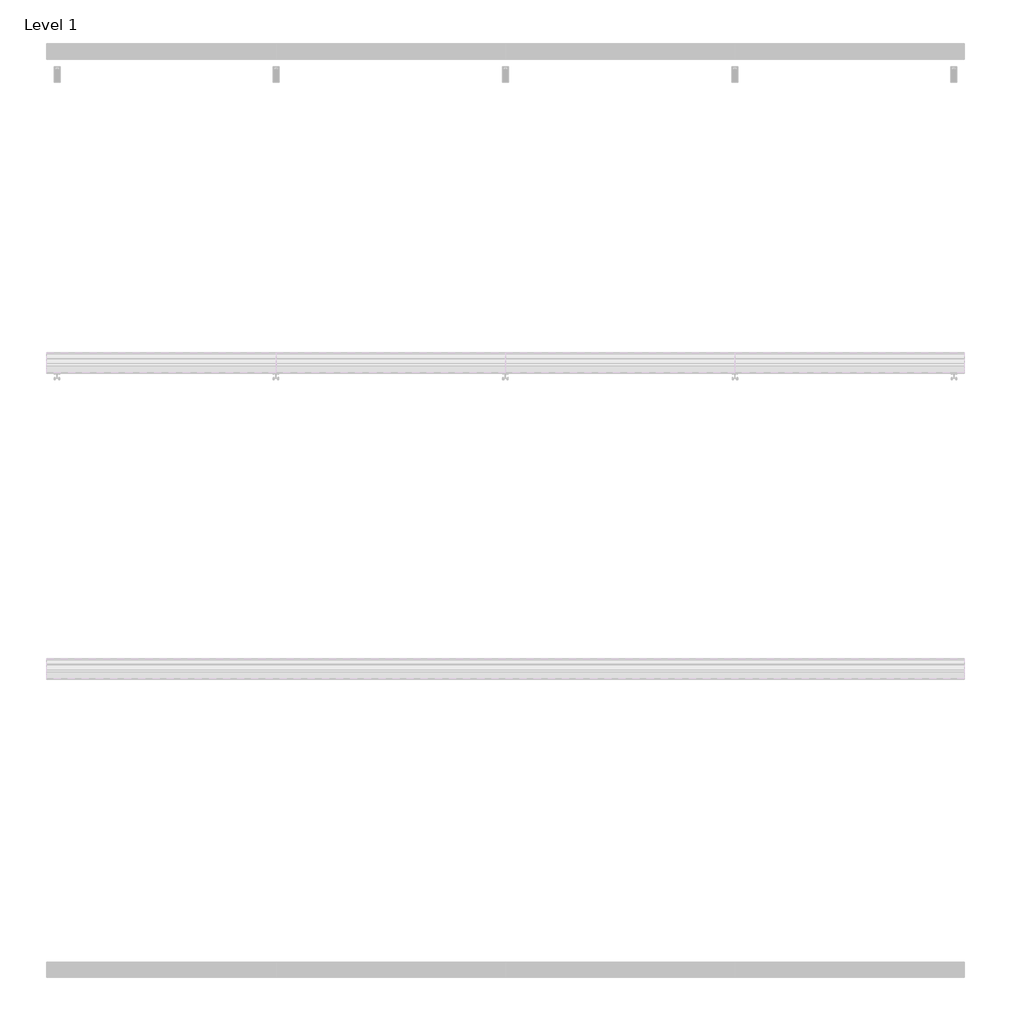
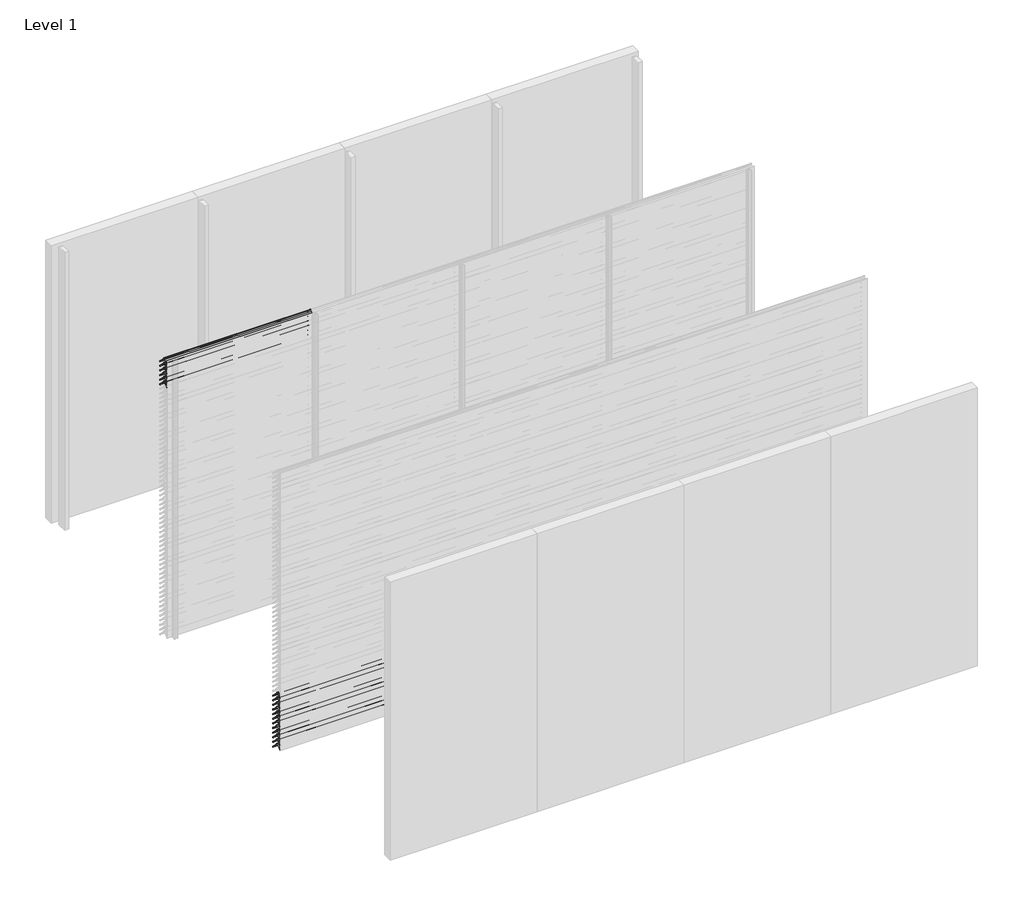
# One storey, part 40 of 173: 18 proxies.
"""IFC4 building model written with IfcOpenShell, lengths in millimetres."""

from ifc_helpers import new_model, si_unit, point, frame, frame_2d, origin, place, context, project, spatial, polyline, circle_curve, trimmed, segment, composite_curve, outline, extrude, element, save

model = new_model("IFC4")

# Units and contexts
model_context = context("Model", 3, world=origin())
ifc_project = project(units=[si_unit("LENGTHUNIT", "METRE", prefix="MILLI")], contexts=[model_context])

# Site, building, storey
site = spatial("IfcSite", under=ifc_project)
building = spatial("IfcBuilding", under=site)
storey = spatial("IfcBuildingStorey", under=building, Name="Level 1", Elevation=0.0)

# Proxies
placement = place(None, origin())
element("IfcBuildingElementProxy", 1, Name="Wall Sweeps", at=placement, inside=storey, context=model_context, shape_type="SweptSolid", body=[
    extrude(outline(composite_curve([segment(polyline([(-41998.0, 2959.1474905), (-41998.0, 2961.6227417)]), True, "CONTINUOUS"), segment(trimmed(circle_curve(frame_2d((-41951.2682172, 2916.2200208)), 65.1557103), [point((-41998.0, 2961.6227417))], [point((-41954.4014323, 2981.3003524))], False, "CARTESIAN"), True, "CONTINUOUS"), segment(polyline([(-41954.4014323, 2981.3003524), (-41934.8315836, 2981.3003524)]), True, "CONTINUOUS"), segment(trimmed(circle_curve(frame_2d((-41732.7329489, 3128.5533172)), 250.0545817), [point((-41934.8315836, 2981.3003524))], [point((-41941.4452143, 2990.8344583))], False, "CARTESIAN"), True, "CONTINUOUS"), segment(trimmed(circle_curve(frame_2d((-41953.2981792, 2985.1737835)), 13.1352966), [point((-41941.4452143, 2990.8344583))], [point((-41953.8171475, 2998.298824))], True, "CARTESIAN"), True, "CONTINUOUS"), segment(polyline([(-41953.8171475, 2998.298824), (-41953.8171475, 3000.0)]), True, "CONTINUOUS"), segment(trimmed(circle_curve(frame_2d((-41953.2981792, 2985.1737835)), 14.8352966), [point((-41953.8171475, 3000.0))], [point((-41939.9637661, 2991.6760487))], False, "CARTESIAN"), True, "CONTINUOUS"), segment(trimmed(circle_curve(frame_2d((-41732.7329489, 3128.5533172)), 248.3545817), [point((-41939.9637661, 2991.6760487))], [point((-41873.8787895, 2924.2059416))], True, "CARTESIAN"), True, "CONTINUOUS"), segment(trimmed(circle_curve(frame_2d((-41883.8147537, 2911.6649442)), 16.0), [point((-41873.8787895, 2924.2059416))], [point((-41867.8648347, 2910.4))], False, "CARTESIAN"), True, "CONTINUOUS"), segment(polyline([(-41867.8648347, 2910.4), (-41869.6712069, 2910.4)]), True, "CONTINUOUS"), segment(trimmed(circle_curve(frame_2d((-41883.8147537, 2911.6649442)), 14.2), [point((-41869.6712069, 2910.4))], [point((-41874.9518628, 2922.7594998))], True, "CARTESIAN"), True, "CONTINUOUS"), segment(trimmed(circle_curve(frame_2d((-41732.7329489, 3128.5533172)), 250.1545817), [point((-41874.9518628, 2922.7594998))], [point((-41933.7064024, 2979.6003524))], False, "CARTESIAN"), True, "CONTINUOUS"), segment(polyline([(-41933.7064024, 2979.6003524), (-41954.3602632, 2979.6003524)]), True, "CONTINUOUS"), segment(trimmed(circle_curve(frame_2d((-41951.2682172, 2916.2200208)), 63.4557103), [point((-41954.3602632, 2979.6003524))], [point((-41998.0, 2959.1474905))], True, "CARTESIAN"), True, "CONTINUOUS")], self_intersect=False)), frame((0.0, 0.0, 0.0), z_axis=(1.0, 0.0, 0.0), x_axis=(0.0, 1.0, 0.0)), (0.0, 0.0, 1.0), 1500.0),
])
element("IfcBuildingElementProxy", 2, Name="Wall Sweeps", at=placement, inside=storey, context=model_context, shape_type="SweptSolid", body=[
    extrude(outline(composite_curve([segment(polyline([(-41998.0, 2909.1474905), (-41998.0, 2911.6227417)]), True, "CONTINUOUS"), segment(trimmed(circle_curve(frame_2d((-41951.2682172, 2866.2200208)), 65.1557103), [point((-41998.0, 2911.6227417))], [point((-41954.4014323, 2931.3003524))], False, "CARTESIAN"), True, "CONTINUOUS"), segment(polyline([(-41954.4014323, 2931.3003524), (-41934.8315836, 2931.3003524)]), True, "CONTINUOUS"), segment(trimmed(circle_curve(frame_2d((-41732.7329489, 3078.5533172)), 250.0545817), [point((-41934.8315836, 2931.3003524))], [point((-41941.4452143, 2940.8344583))], False, "CARTESIAN"), True, "CONTINUOUS"), segment(trimmed(circle_curve(frame_2d((-41953.2981792, 2935.1737835)), 13.1352966), [point((-41941.4452143, 2940.8344583))], [point((-41953.8171475, 2948.298824))], True, "CARTESIAN"), True, "CONTINUOUS"), segment(polyline([(-41953.8171475, 2948.298824), (-41953.8171475, 2950.0)]), True, "CONTINUOUS"), segment(trimmed(circle_curve(frame_2d((-41953.2981792, 2935.1737835)), 14.8352966), [point((-41953.8171475, 2950.0))], [point((-41939.9637661, 2941.6760487))], False, "CARTESIAN"), True, "CONTINUOUS"), segment(trimmed(circle_curve(frame_2d((-41732.7329489, 3078.5533172)), 248.3545817), [point((-41939.9637661, 2941.6760487))], [point((-41873.8787895, 2874.2059416))], True, "CARTESIAN"), True, "CONTINUOUS"), segment(trimmed(circle_curve(frame_2d((-41883.8147537, 2861.6649442)), 16.0), [point((-41873.8787895, 2874.2059416))], [point((-41867.8648347, 2860.4))], False, "CARTESIAN"), True, "CONTINUOUS"), segment(polyline([(-41867.8648347, 2860.4), (-41869.6712069, 2860.4)]), True, "CONTINUOUS"), segment(trimmed(circle_curve(frame_2d((-41883.8147537, 2861.6649442)), 14.2), [point((-41869.6712069, 2860.4))], [point((-41874.9518628, 2872.7594998))], True, "CARTESIAN"), True, "CONTINUOUS"), segment(trimmed(circle_curve(frame_2d((-41732.7329489, 3078.5533172)), 250.1545817), [point((-41874.9518628, 2872.7594998))], [point((-41933.7064024, 2929.6003524))], False, "CARTESIAN"), True, "CONTINUOUS"), segment(polyline([(-41933.7064024, 2929.6003524), (-41954.3602632, 2929.6003524)]), True, "CONTINUOUS"), segment(trimmed(circle_curve(frame_2d((-41951.2682172, 2866.2200208)), 63.4557103), [point((-41954.3602632, 2929.6003524))], [point((-41998.0, 2909.1474905))], True, "CARTESIAN"), True, "CONTINUOUS")], self_intersect=False)), frame((0.0, 0.0, 0.0), z_axis=(1.0, 0.0, 0.0), x_axis=(0.0, 1.0, 0.0)), (0.0, 0.0, 1.0), 1500.0),
])
element("IfcBuildingElementProxy", 3, Name="Wall Sweeps", at=placement, inside=storey, context=model_context, shape_type="SweptSolid", body=[
    extrude(outline(composite_curve([segment(polyline([(-41998.0, 2859.1474905), (-41998.0, 2861.6227417)]), True, "CONTINUOUS"), segment(trimmed(circle_curve(frame_2d((-41951.2682172, 2816.2200208)), 65.1557103), [point((-41998.0, 2861.6227417))], [point((-41954.4014323, 2881.3003524))], False, "CARTESIAN"), True, "CONTINUOUS"), segment(polyline([(-41954.4014323, 2881.3003524), (-41934.8315836, 2881.3003524)]), True, "CONTINUOUS"), segment(trimmed(circle_curve(frame_2d((-41732.7329489, 3028.5533172)), 250.0545817), [point((-41934.8315836, 2881.3003524))], [point((-41941.4452143, 2890.8344583))], False, "CARTESIAN"), True, "CONTINUOUS"), segment(trimmed(circle_curve(frame_2d((-41953.2981792, 2885.1737835)), 13.1352966), [point((-41941.4452143, 2890.8344583))], [point((-41953.8171475, 2898.298824))], True, "CARTESIAN"), True, "CONTINUOUS"), segment(polyline([(-41953.8171475, 2898.298824), (-41953.8171475, 2900.0)]), True, "CONTINUOUS"), segment(trimmed(circle_curve(frame_2d((-41953.2981792, 2885.1737835)), 14.8352966), [point((-41953.8171475, 2900.0))], [point((-41939.9637661, 2891.6760487))], False, "CARTESIAN"), True, "CONTINUOUS"), segment(trimmed(circle_curve(frame_2d((-41732.7329489, 3028.5533172)), 248.3545817), [point((-41939.9637661, 2891.6760487))], [point((-41873.8787895, 2824.2059416))], True, "CARTESIAN"), True, "CONTINUOUS"), segment(trimmed(circle_curve(frame_2d((-41883.8147537, 2811.6649442)), 16.0), [point((-41873.8787895, 2824.2059416))], [point((-41867.8648347, 2810.4))], False, "CARTESIAN"), True, "CONTINUOUS"), segment(polyline([(-41867.8648347, 2810.4), (-41869.6712069, 2810.4)]), True, "CONTINUOUS"), segment(trimmed(circle_curve(frame_2d((-41883.8147537, 2811.6649442)), 14.2), [point((-41869.6712069, 2810.4))], [point((-41874.9518628, 2822.7594998))], True, "CARTESIAN"), True, "CONTINUOUS"), segment(trimmed(circle_curve(frame_2d((-41732.7329489, 3028.5533172)), 250.1545817), [point((-41874.9518628, 2822.7594998))], [point((-41933.7064024, 2879.6003524))], False, "CARTESIAN"), True, "CONTINUOUS"), segment(polyline([(-41933.7064024, 2879.6003524), (-41954.3602632, 2879.6003524)]), True, "CONTINUOUS"), segment(trimmed(circle_curve(frame_2d((-41951.2682172, 2816.2200208)), 63.4557103), [point((-41954.3602632, 2879.6003524))], [point((-41998.0, 2859.1474905))], True, "CARTESIAN"), True, "CONTINUOUS")], self_intersect=False)), frame((0.0, 0.0, 0.0), z_axis=(1.0, 0.0, 0.0), x_axis=(0.0, 1.0, 0.0)), (0.0, 0.0, 1.0), 1500.0),
])
element("IfcBuildingElementProxy", 4, Name="Wall Sweeps", at=placement, inside=storey, context=model_context, shape_type="SweptSolid", body=[
    extrude(outline(composite_curve([segment(polyline([(-41998.0, 2809.1474905), (-41998.0, 2811.6227417)]), True, "CONTINUOUS"), segment(trimmed(circle_curve(frame_2d((-41951.2682172, 2766.2200208)), 65.1557103), [point((-41998.0, 2811.6227417))], [point((-41954.4014323, 2831.3003524))], False, "CARTESIAN"), True, "CONTINUOUS"), segment(polyline([(-41954.4014323, 2831.3003524), (-41934.8315836, 2831.3003524)]), True, "CONTINUOUS"), segment(trimmed(circle_curve(frame_2d((-41732.7329489, 2978.5533172)), 250.0545817), [point((-41934.8315836, 2831.3003524))], [point((-41941.4452143, 2840.8344583))], False, "CARTESIAN"), True, "CONTINUOUS"), segment(trimmed(circle_curve(frame_2d((-41953.2981792, 2835.1737835)), 13.1352966), [point((-41941.4452143, 2840.8344583))], [point((-41953.8171475, 2848.298824))], True, "CARTESIAN"), True, "CONTINUOUS"), segment(polyline([(-41953.8171475, 2848.298824), (-41953.8171475, 2850.0)]), True, "CONTINUOUS"), segment(trimmed(circle_curve(frame_2d((-41953.2981792, 2835.1737835)), 14.8352966), [point((-41953.8171475, 2850.0))], [point((-41939.9637661, 2841.6760487))], False, "CARTESIAN"), True, "CONTINUOUS"), segment(trimmed(circle_curve(frame_2d((-41732.7329489, 2978.5533172)), 248.3545817), [point((-41939.9637661, 2841.6760487))], [point((-41873.8787895, 2774.2059416))], True, "CARTESIAN"), True, "CONTINUOUS"), segment(trimmed(circle_curve(frame_2d((-41883.8147537, 2761.6649442)), 16.0), [point((-41873.8787895, 2774.2059416))], [point((-41867.8648347, 2760.4))], False, "CARTESIAN"), True, "CONTINUOUS"), segment(polyline([(-41867.8648347, 2760.4), (-41869.6712069, 2760.4)]), True, "CONTINUOUS"), segment(trimmed(circle_curve(frame_2d((-41883.8147537, 2761.6649442)), 14.2), [point((-41869.6712069, 2760.4))], [point((-41874.9518628, 2772.7594998))], True, "CARTESIAN"), True, "CONTINUOUS"), segment(trimmed(circle_curve(frame_2d((-41732.7329489, 2978.5533172)), 250.1545817), [point((-41874.9518628, 2772.7594998))], [point((-41933.7064024, 2829.6003524))], False, "CARTESIAN"), True, "CONTINUOUS"), segment(polyline([(-41933.7064024, 2829.6003524), (-41954.3602632, 2829.6003524)]), True, "CONTINUOUS"), segment(trimmed(circle_curve(frame_2d((-41951.2682172, 2766.2200208)), 63.4557103), [point((-41954.3602632, 2829.6003524))], [point((-41998.0, 2809.1474905))], True, "CARTESIAN"), True, "CONTINUOUS")], self_intersect=False)), frame((0.0, 0.0, 0.0), z_axis=(1.0, 0.0, 0.0), x_axis=(0.0, 1.0, 0.0)), (0.0, 0.0, 1.0), 1500.0),
])
element("IfcBuildingElementProxy", 5, Name="Wall Sweeps", at=placement, inside=storey, context=model_context, shape_type="SweptSolid", body=[
    extrude(outline(composite_curve([segment(polyline([(-41998.0, 2759.1474905), (-41998.0, 2761.6227417)]), True, "CONTINUOUS"), segment(trimmed(circle_curve(frame_2d((-41951.2682172, 2716.2200208)), 65.1557103), [point((-41998.0, 2761.6227417))], [point((-41954.4014323, 2781.3003524))], False, "CARTESIAN"), True, "CONTINUOUS"), segment(polyline([(-41954.4014323, 2781.3003524), (-41934.8315836, 2781.3003524)]), True, "CONTINUOUS"), segment(trimmed(circle_curve(frame_2d((-41732.7329489, 2928.5533172)), 250.0545817), [point((-41934.8315836, 2781.3003524))], [point((-41941.4452143, 2790.8344583))], False, "CARTESIAN"), True, "CONTINUOUS"), segment(trimmed(circle_curve(frame_2d((-41953.2981792, 2785.1737835)), 13.1352966), [point((-41941.4452143, 2790.8344583))], [point((-41953.8171475, 2798.298824))], True, "CARTESIAN"), True, "CONTINUOUS"), segment(polyline([(-41953.8171475, 2798.298824), (-41953.8171475, 2800.0)]), True, "CONTINUOUS"), segment(trimmed(circle_curve(frame_2d((-41953.2981792, 2785.1737835)), 14.8352966), [point((-41953.8171475, 2800.0))], [point((-41939.9637661, 2791.6760487))], False, "CARTESIAN"), True, "CONTINUOUS"), segment(trimmed(circle_curve(frame_2d((-41732.7329489, 2928.5533172)), 248.3545817), [point((-41939.9637661, 2791.6760487))], [point((-41873.8787895, 2724.2059416))], True, "CARTESIAN"), True, "CONTINUOUS"), segment(trimmed(circle_curve(frame_2d((-41883.8147537, 2711.6649442)), 16.0), [point((-41873.8787895, 2724.2059416))], [point((-41867.8648347, 2710.4))], False, "CARTESIAN"), True, "CONTINUOUS"), segment(polyline([(-41867.8648347, 2710.4), (-41869.6712069, 2710.4)]), True, "CONTINUOUS"), segment(trimmed(circle_curve(frame_2d((-41883.8147537, 2711.6649442)), 14.2), [point((-41869.6712069, 2710.4))], [point((-41874.9518628, 2722.7594998))], True, "CARTESIAN"), True, "CONTINUOUS"), segment(trimmed(circle_curve(frame_2d((-41732.7329489, 2928.5533172)), 250.1545817), [point((-41874.9518628, 2722.7594998))], [point((-41933.7064024, 2779.6003524))], False, "CARTESIAN"), True, "CONTINUOUS"), segment(polyline([(-41933.7064024, 2779.6003524), (-41954.3602632, 2779.6003524)]), True, "CONTINUOUS"), segment(trimmed(circle_curve(frame_2d((-41951.2682172, 2716.2200208)), 63.4557103), [point((-41954.3602632, 2779.6003524))], [point((-41998.0, 2759.1474905))], True, "CARTESIAN"), True, "CONTINUOUS")], self_intersect=False)), frame((0.0, 0.0, 0.0), z_axis=(1.0, 0.0, 0.0), x_axis=(0.0, 1.0, 0.0)), (0.0, 0.0, 1.0), 1500.0),
])
element("IfcBuildingElementProxy", 6, Name="Wall Sweeps", at=placement, inside=storey, context=model_context, shape_type="SweptSolid", body=[
    extrude(outline(composite_curve([segment(polyline([(-41998.0, 2709.1474905), (-41998.0, 2711.6227417)]), True, "CONTINUOUS"), segment(trimmed(circle_curve(frame_2d((-41951.2682172, 2666.2200208)), 65.1557103), [point((-41998.0, 2711.6227417))], [point((-41954.4014323, 2731.3003524))], False, "CARTESIAN"), True, "CONTINUOUS"), segment(polyline([(-41954.4014323, 2731.3003524), (-41934.8315836, 2731.3003524)]), True, "CONTINUOUS"), segment(trimmed(circle_curve(frame_2d((-41732.7329489, 2878.5533172)), 250.0545817), [point((-41934.8315836, 2731.3003524))], [point((-41941.4452143, 2740.8344583))], False, "CARTESIAN"), True, "CONTINUOUS"), segment(trimmed(circle_curve(frame_2d((-41953.2981792, 2735.1737835)), 13.1352966), [point((-41941.4452143, 2740.8344583))], [point((-41953.8171475, 2748.298824))], True, "CARTESIAN"), True, "CONTINUOUS"), segment(polyline([(-41953.8171475, 2748.298824), (-41953.8171475, 2750.0)]), True, "CONTINUOUS"), segment(trimmed(circle_curve(frame_2d((-41953.2981792, 2735.1737835)), 14.8352966), [point((-41953.8171475, 2750.0))], [point((-41939.9637661, 2741.6760487))], False, "CARTESIAN"), True, "CONTINUOUS"), segment(trimmed(circle_curve(frame_2d((-41732.7329489, 2878.5533172)), 248.3545817), [point((-41939.9637661, 2741.6760487))], [point((-41873.8787895, 2674.2059416))], True, "CARTESIAN"), True, "CONTINUOUS"), segment(trimmed(circle_curve(frame_2d((-41883.8147537, 2661.6649442)), 16.0), [point((-41873.8787895, 2674.2059416))], [point((-41867.8648347, 2660.4))], False, "CARTESIAN"), True, "CONTINUOUS"), segment(polyline([(-41867.8648347, 2660.4), (-41869.6712069, 2660.4)]), True, "CONTINUOUS"), segment(trimmed(circle_curve(frame_2d((-41883.8147537, 2661.6649442)), 14.2), [point((-41869.6712069, 2660.4))], [point((-41874.9518628, 2672.7594998))], True, "CARTESIAN"), True, "CONTINUOUS"), segment(trimmed(circle_curve(frame_2d((-41732.7329489, 2878.5533172)), 250.1545817), [point((-41874.9518628, 2672.7594998))], [point((-41933.7064024, 2729.6003524))], False, "CARTESIAN"), True, "CONTINUOUS"), segment(polyline([(-41933.7064024, 2729.6003524), (-41954.3602632, 2729.6003524)]), True, "CONTINUOUS"), segment(trimmed(circle_curve(frame_2d((-41951.2682172, 2666.2200208)), 63.4557103), [point((-41954.3602632, 2729.6003524))], [point((-41998.0, 2709.1474905))], True, "CARTESIAN"), True, "CONTINUOUS")], self_intersect=False)), frame((0.0, 0.0, 0.0), z_axis=(1.0, 0.0, 0.0), x_axis=(0.0, 1.0, 0.0)), (0.0, 0.0, 1.0), 1500.0),
])
element("IfcBuildingElementProxy", 7, Name="Wall Sweeps", at=placement, inside=storey, context=model_context, shape_type="SweptSolid", body=[
    extrude(outline(composite_curve([segment(polyline([(-43998.0, 559.1474905), (-43998.0, 561.6227417)]), True, "CONTINUOUS"), segment(trimmed(circle_curve(frame_2d((-43951.2682172, 516.2200208)), 65.1557103), [point((-43998.0, 561.6227417))], [point((-43954.4014323, 581.3003524))], False, "CARTESIAN"), True, "CONTINUOUS"), segment(polyline([(-43954.4014323, 581.3003524), (-43934.8315836, 581.3003524)]), True, "CONTINUOUS"), segment(trimmed(circle_curve(frame_2d((-43732.7329489, 728.5533172)), 250.0545817), [point((-43934.8315836, 581.3003524))], [point((-43941.4452143, 590.8344583))], False, "CARTESIAN"), True, "CONTINUOUS"), segment(trimmed(circle_curve(frame_2d((-43953.2981792, 585.1737835)), 13.1352966), [point((-43941.4452143, 590.8344583))], [point((-43953.8171475, 598.298824))], True, "CARTESIAN"), True, "CONTINUOUS"), segment(polyline([(-43953.8171475, 598.298824), (-43953.8171475, 600.0)]), True, "CONTINUOUS"), segment(trimmed(circle_curve(frame_2d((-43953.2981792, 585.1737835)), 14.8352966), [point((-43953.8171475, 600.0))], [point((-43939.9637661, 591.6760487))], False, "CARTESIAN"), True, "CONTINUOUS"), segment(trimmed(circle_curve(frame_2d((-43732.7329489, 728.5533172)), 248.3545817), [point((-43939.9637661, 591.6760487))], [point((-43873.8787895, 524.2059416))], True, "CARTESIAN"), True, "CONTINUOUS"), segment(trimmed(circle_curve(frame_2d((-43883.8147537, 511.6649442)), 16.0), [point((-43873.8787895, 524.2059416))], [point((-43867.8648347, 510.4))], False, "CARTESIAN"), True, "CONTINUOUS"), segment(polyline([(-43867.8648347, 510.4), (-43869.6712069, 510.4)]), True, "CONTINUOUS"), segment(trimmed(circle_curve(frame_2d((-43883.8147537, 511.6649442)), 14.2), [point((-43869.6712069, 510.4))], [point((-43874.9518628, 522.7594998))], True, "CARTESIAN"), True, "CONTINUOUS"), segment(trimmed(circle_curve(frame_2d((-43732.7329489, 728.5533172)), 250.1545817), [point((-43874.9518628, 522.7594998))], [point((-43933.7064024, 579.6003524))], False, "CARTESIAN"), True, "CONTINUOUS"), segment(polyline([(-43933.7064024, 579.6003524), (-43954.3602632, 579.6003524)]), True, "CONTINUOUS"), segment(trimmed(circle_curve(frame_2d((-43951.2682172, 516.2200208)), 63.4557103), [point((-43954.3602632, 579.6003524))], [point((-43998.0, 559.1474905))], True, "CARTESIAN"), True, "CONTINUOUS")], self_intersect=False)), frame((0.0, 0.0, 0.0), z_axis=(1.0, 0.0, 0.0), x_axis=(0.0, 1.0, 0.0)), (0.0, 0.0, 1.0), 6000.0),
])
element("IfcBuildingElementProxy", 8, Name="Wall Sweeps", at=placement, inside=storey, context=model_context, shape_type="SweptSolid", body=[
    extrude(outline(composite_curve([segment(polyline([(-43998.0, 509.1474905), (-43998.0, 511.6227417)]), True, "CONTINUOUS"), segment(trimmed(circle_curve(frame_2d((-43951.2682172, 466.2200208)), 65.1557103), [point((-43998.0, 511.6227417))], [point((-43954.4014323, 531.3003524))], False, "CARTESIAN"), True, "CONTINUOUS"), segment(polyline([(-43954.4014323, 531.3003524), (-43934.8315836, 531.3003524)]), True, "CONTINUOUS"), segment(trimmed(circle_curve(frame_2d((-43732.7329489, 678.5533172)), 250.0545817), [point((-43934.8315836, 531.3003524))], [point((-43941.4452143, 540.8344583))], False, "CARTESIAN"), True, "CONTINUOUS"), segment(trimmed(circle_curve(frame_2d((-43953.2981792, 535.1737835)), 13.1352966), [point((-43941.4452143, 540.8344583))], [point((-43953.8171475, 548.298824))], True, "CARTESIAN"), True, "CONTINUOUS"), segment(polyline([(-43953.8171475, 548.298824), (-43953.8171475, 550.0)]), True, "CONTINUOUS"), segment(trimmed(circle_curve(frame_2d((-43953.2981792, 535.1737835)), 14.8352966), [point((-43953.8171475, 550.0))], [point((-43939.9637661, 541.6760487))], False, "CARTESIAN"), True, "CONTINUOUS"), segment(trimmed(circle_curve(frame_2d((-43732.7329489, 678.5533172)), 248.3545817), [point((-43939.9637661, 541.6760487))], [point((-43873.8787895, 474.2059416))], True, "CARTESIAN"), True, "CONTINUOUS"), segment(trimmed(circle_curve(frame_2d((-43883.8147537, 461.6649442)), 16.0), [point((-43873.8787895, 474.2059416))], [point((-43867.8648347, 460.4))], False, "CARTESIAN"), True, "CONTINUOUS"), segment(polyline([(-43867.8648347, 460.4), (-43869.6712069, 460.4)]), True, "CONTINUOUS"), segment(trimmed(circle_curve(frame_2d((-43883.8147537, 461.6649442)), 14.2), [point((-43869.6712069, 460.4))], [point((-43874.9518628, 472.7594998))], True, "CARTESIAN"), True, "CONTINUOUS"), segment(trimmed(circle_curve(frame_2d((-43732.7329489, 678.5533172)), 250.1545817), [point((-43874.9518628, 472.7594998))], [point((-43933.7064024, 529.6003524))], False, "CARTESIAN"), True, "CONTINUOUS"), segment(polyline([(-43933.7064024, 529.6003524), (-43954.3602632, 529.6003524)]), True, "CONTINUOUS"), segment(trimmed(circle_curve(frame_2d((-43951.2682172, 466.2200208)), 63.4557103), [point((-43954.3602632, 529.6003524))], [point((-43998.0, 509.1474905))], True, "CARTESIAN"), True, "CONTINUOUS")], self_intersect=False)), frame((0.0, 0.0, 0.0), z_axis=(1.0, 0.0, 0.0), x_axis=(0.0, 1.0, 0.0)), (0.0, 0.0, 1.0), 6000.0),
])
element("IfcBuildingElementProxy", 9, Name="Wall Sweeps", at=placement, inside=storey, context=model_context, shape_type="SweptSolid", body=[
    extrude(outline(composite_curve([segment(polyline([(-43998.0, 459.1474905), (-43998.0, 461.6227417)]), True, "CONTINUOUS"), segment(trimmed(circle_curve(frame_2d((-43951.2682172, 416.2200208)), 65.1557103), [point((-43998.0, 461.6227417))], [point((-43954.4014323, 481.3003524))], False, "CARTESIAN"), True, "CONTINUOUS"), segment(polyline([(-43954.4014323, 481.3003524), (-43934.8315836, 481.3003524)]), True, "CONTINUOUS"), segment(trimmed(circle_curve(frame_2d((-43732.7329489, 628.5533172)), 250.0545817), [point((-43934.8315836, 481.3003524))], [point((-43941.4452143, 490.8344583))], False, "CARTESIAN"), True, "CONTINUOUS"), segment(trimmed(circle_curve(frame_2d((-43953.2981792, 485.1737835)), 13.1352966), [point((-43941.4452143, 490.8344583))], [point((-43953.8171475, 498.298824))], True, "CARTESIAN"), True, "CONTINUOUS"), segment(polyline([(-43953.8171475, 498.298824), (-43953.8171475, 500.0)]), True, "CONTINUOUS"), segment(trimmed(circle_curve(frame_2d((-43953.2981792, 485.1737835)), 14.8352966), [point((-43953.8171475, 500.0))], [point((-43939.9637661, 491.6760487))], False, "CARTESIAN"), True, "CONTINUOUS"), segment(trimmed(circle_curve(frame_2d((-43732.7329489, 628.5533172)), 248.3545817), [point((-43939.9637661, 491.6760487))], [point((-43873.8787895, 424.2059416))], True, "CARTESIAN"), True, "CONTINUOUS"), segment(trimmed(circle_curve(frame_2d((-43883.8147537, 411.6649442)), 16.0), [point((-43873.8787895, 424.2059416))], [point((-43867.8648347, 410.4))], False, "CARTESIAN"), True, "CONTINUOUS"), segment(polyline([(-43867.8648347, 410.4), (-43869.6712069, 410.4)]), True, "CONTINUOUS"), segment(trimmed(circle_curve(frame_2d((-43883.8147537, 411.6649442)), 14.2), [point((-43869.6712069, 410.4))], [point((-43874.9518628, 422.7594998))], True, "CARTESIAN"), True, "CONTINUOUS"), segment(trimmed(circle_curve(frame_2d((-43732.7329489, 628.5533172)), 250.1545817), [point((-43874.9518628, 422.7594998))], [point((-43933.7064024, 479.6003524))], False, "CARTESIAN"), True, "CONTINUOUS"), segment(polyline([(-43933.7064024, 479.6003524), (-43954.3602632, 479.6003524)]), True, "CONTINUOUS"), segment(trimmed(circle_curve(frame_2d((-43951.2682172, 416.2200208)), 63.4557103), [point((-43954.3602632, 479.6003524))], [point((-43998.0, 459.1474905))], True, "CARTESIAN"), True, "CONTINUOUS")], self_intersect=False)), frame((0.0, 0.0, 0.0), z_axis=(1.0, 0.0, 0.0), x_axis=(0.0, 1.0, 0.0)), (0.0, 0.0, 1.0), 6000.0),
])
element("IfcBuildingElementProxy", 10, Name="Wall Sweeps", at=placement, inside=storey, context=model_context, shape_type="SweptSolid", body=[
    extrude(outline(composite_curve([segment(polyline([(-43998.0, 409.1474905), (-43998.0, 411.6227417)]), True, "CONTINUOUS"), segment(trimmed(circle_curve(frame_2d((-43951.2682172, 366.2200208)), 65.1557103), [point((-43998.0, 411.6227417))], [point((-43954.4014323, 431.3003524))], False, "CARTESIAN"), True, "CONTINUOUS"), segment(polyline([(-43954.4014323, 431.3003524), (-43934.8315836, 431.3003524)]), True, "CONTINUOUS"), segment(trimmed(circle_curve(frame_2d((-43732.7329489, 578.5533172)), 250.0545817), [point((-43934.8315836, 431.3003524))], [point((-43941.4452143, 440.8344583))], False, "CARTESIAN"), True, "CONTINUOUS"), segment(trimmed(circle_curve(frame_2d((-43953.2981792, 435.1737835)), 13.1352966), [point((-43941.4452143, 440.8344583))], [point((-43953.8171475, 448.298824))], True, "CARTESIAN"), True, "CONTINUOUS"), segment(polyline([(-43953.8171475, 448.298824), (-43953.8171475, 450.0)]), True, "CONTINUOUS"), segment(trimmed(circle_curve(frame_2d((-43953.2981792, 435.1737835)), 14.8352966), [point((-43953.8171475, 450.0))], [point((-43939.9637661, 441.6760487))], False, "CARTESIAN"), True, "CONTINUOUS"), segment(trimmed(circle_curve(frame_2d((-43732.7329489, 578.5533172)), 248.3545817), [point((-43939.9637661, 441.6760487))], [point((-43873.8787895, 374.2059416))], True, "CARTESIAN"), True, "CONTINUOUS"), segment(trimmed(circle_curve(frame_2d((-43883.8147537, 361.6649442)), 16.0), [point((-43873.8787895, 374.2059416))], [point((-43867.8648347, 360.4))], False, "CARTESIAN"), True, "CONTINUOUS"), segment(polyline([(-43867.8648347, 360.4), (-43869.6712069, 360.4)]), True, "CONTINUOUS"), segment(trimmed(circle_curve(frame_2d((-43883.8147537, 361.6649442)), 14.2), [point((-43869.6712069, 360.4))], [point((-43874.9518628, 372.7594998))], True, "CARTESIAN"), True, "CONTINUOUS"), segment(trimmed(circle_curve(frame_2d((-43732.7329489, 578.5533172)), 250.1545817), [point((-43874.9518628, 372.7594998))], [point((-43933.7064024, 429.6003524))], False, "CARTESIAN"), True, "CONTINUOUS"), segment(polyline([(-43933.7064024, 429.6003524), (-43954.3602632, 429.6003524)]), True, "CONTINUOUS"), segment(trimmed(circle_curve(frame_2d((-43951.2682172, 366.2200208)), 63.4557103), [point((-43954.3602632, 429.6003524))], [point((-43998.0, 409.1474905))], True, "CARTESIAN"), True, "CONTINUOUS")], self_intersect=False)), frame((0.0, 0.0, 0.0), z_axis=(1.0, 0.0, 0.0), x_axis=(0.0, 1.0, 0.0)), (0.0, 0.0, 1.0), 6000.0),
])
element("IfcBuildingElementProxy", 11, Name="Wall Sweeps", at=placement, inside=storey, context=model_context, shape_type="SweptSolid", body=[
    extrude(outline(composite_curve([segment(polyline([(-43998.0, 359.1474905), (-43998.0, 361.6227417)]), True, "CONTINUOUS"), segment(trimmed(circle_curve(frame_2d((-43951.2682172, 316.2200208)), 65.1557103), [point((-43998.0, 361.6227417))], [point((-43954.4014323, 381.3003524))], False, "CARTESIAN"), True, "CONTINUOUS"), segment(polyline([(-43954.4014323, 381.3003524), (-43934.8315836, 381.3003524)]), True, "CONTINUOUS"), segment(trimmed(circle_curve(frame_2d((-43732.7329489, 528.5533172)), 250.0545817), [point((-43934.8315836, 381.3003524))], [point((-43941.4452143, 390.8344583))], False, "CARTESIAN"), True, "CONTINUOUS"), segment(trimmed(circle_curve(frame_2d((-43953.2981792, 385.1737835)), 13.1352966), [point((-43941.4452143, 390.8344583))], [point((-43953.8171475, 398.298824))], True, "CARTESIAN"), True, "CONTINUOUS"), segment(polyline([(-43953.8171475, 398.298824), (-43953.8171475, 400.0)]), True, "CONTINUOUS"), segment(trimmed(circle_curve(frame_2d((-43953.2981792, 385.1737835)), 14.8352966), [point((-43953.8171475, 400.0))], [point((-43939.9637661, 391.6760487))], False, "CARTESIAN"), True, "CONTINUOUS"), segment(trimmed(circle_curve(frame_2d((-43732.7329489, 528.5533172)), 248.3545817), [point((-43939.9637661, 391.6760487))], [point((-43873.8787895, 324.2059416))], True, "CARTESIAN"), True, "CONTINUOUS"), segment(trimmed(circle_curve(frame_2d((-43883.8147537, 311.6649442)), 16.0), [point((-43873.8787895, 324.2059416))], [point((-43867.8648347, 310.4))], False, "CARTESIAN"), True, "CONTINUOUS"), segment(polyline([(-43867.8648347, 310.4), (-43869.6712069, 310.4)]), True, "CONTINUOUS"), segment(trimmed(circle_curve(frame_2d((-43883.8147537, 311.6649442)), 14.2), [point((-43869.6712069, 310.4))], [point((-43874.9518628, 322.7594998))], True, "CARTESIAN"), True, "CONTINUOUS"), segment(trimmed(circle_curve(frame_2d((-43732.7329489, 528.5533172)), 250.1545817), [point((-43874.9518628, 322.7594998))], [point((-43933.7064024, 379.6003524))], False, "CARTESIAN"), True, "CONTINUOUS"), segment(polyline([(-43933.7064024, 379.6003524), (-43954.3602632, 379.6003524)]), True, "CONTINUOUS"), segment(trimmed(circle_curve(frame_2d((-43951.2682172, 316.2200208)), 63.4557103), [point((-43954.3602632, 379.6003524))], [point((-43998.0, 359.1474905))], True, "CARTESIAN"), True, "CONTINUOUS")], self_intersect=False)), frame((0.0, 0.0, 0.0), z_axis=(1.0, 0.0, 0.0), x_axis=(0.0, 1.0, 0.0)), (0.0, 0.0, 1.0), 6000.0),
])
element("IfcBuildingElementProxy", 12, Name="Wall Sweeps", at=placement, inside=storey, context=model_context, shape_type="SweptSolid", body=[
    extrude(outline(composite_curve([segment(polyline([(-43998.0, 309.1474905), (-43998.0, 311.6227417)]), True, "CONTINUOUS"), segment(trimmed(circle_curve(frame_2d((-43951.2682172, 266.2200208)), 65.1557103), [point((-43998.0, 311.6227417))], [point((-43954.4014323, 331.3003524))], False, "CARTESIAN"), True, "CONTINUOUS"), segment(polyline([(-43954.4014323, 331.3003524), (-43934.8315836, 331.3003524)]), True, "CONTINUOUS"), segment(trimmed(circle_curve(frame_2d((-43732.7329489, 478.5533172)), 250.0545817), [point((-43934.8315836, 331.3003524))], [point((-43941.4452143, 340.8344583))], False, "CARTESIAN"), True, "CONTINUOUS"), segment(trimmed(circle_curve(frame_2d((-43953.2981792, 335.1737835)), 13.1352966), [point((-43941.4452143, 340.8344583))], [point((-43953.8171475, 348.298824))], True, "CARTESIAN"), True, "CONTINUOUS"), segment(polyline([(-43953.8171475, 348.298824), (-43953.8171475, 350.0)]), True, "CONTINUOUS"), segment(trimmed(circle_curve(frame_2d((-43953.2981792, 335.1737835)), 14.8352966), [point((-43953.8171475, 350.0))], [point((-43939.9637661, 341.6760487))], False, "CARTESIAN"), True, "CONTINUOUS"), segment(trimmed(circle_curve(frame_2d((-43732.7329489, 478.5533172)), 248.3545817), [point((-43939.9637661, 341.6760487))], [point((-43873.8787895, 274.2059416))], True, "CARTESIAN"), True, "CONTINUOUS"), segment(trimmed(circle_curve(frame_2d((-43883.8147537, 261.6649442)), 16.0), [point((-43873.8787895, 274.2059416))], [point((-43867.8648347, 260.4))], False, "CARTESIAN"), True, "CONTINUOUS"), segment(polyline([(-43867.8648347, 260.4), (-43869.6712069, 260.4)]), True, "CONTINUOUS"), segment(trimmed(circle_curve(frame_2d((-43883.8147537, 261.6649442)), 14.2), [point((-43869.6712069, 260.4))], [point((-43874.9518628, 272.7594998))], True, "CARTESIAN"), True, "CONTINUOUS"), segment(trimmed(circle_curve(frame_2d((-43732.7329489, 478.5533172)), 250.1545817), [point((-43874.9518628, 272.7594998))], [point((-43933.7064024, 329.6003524))], False, "CARTESIAN"), True, "CONTINUOUS"), segment(polyline([(-43933.7064024, 329.6003524), (-43954.3602632, 329.6003524)]), True, "CONTINUOUS"), segment(trimmed(circle_curve(frame_2d((-43951.2682172, 266.2200208)), 63.4557103), [point((-43954.3602632, 329.6003524))], [point((-43998.0, 309.1474905))], True, "CARTESIAN"), True, "CONTINUOUS")], self_intersect=False)), frame((0.0, 0.0, 0.0), z_axis=(1.0, 0.0, 0.0), x_axis=(0.0, 1.0, 0.0)), (0.0, 0.0, 1.0), 6000.0),
])
element("IfcBuildingElementProxy", 13, Name="Wall Sweeps", at=placement, inside=storey, context=model_context, shape_type="SweptSolid", body=[
    extrude(outline(composite_curve([segment(polyline([(-43998.0, 259.1474905), (-43998.0, 261.6227417)]), True, "CONTINUOUS"), segment(trimmed(circle_curve(frame_2d((-43951.2682172, 216.2200208)), 65.1557103), [point((-43998.0, 261.6227417))], [point((-43954.4014323, 281.3003524))], False, "CARTESIAN"), True, "CONTINUOUS"), segment(polyline([(-43954.4014323, 281.3003524), (-43934.8315836, 281.3003524)]), True, "CONTINUOUS"), segment(trimmed(circle_curve(frame_2d((-43732.7329489, 428.5533172)), 250.0545817), [point((-43934.8315836, 281.3003524))], [point((-43941.4452143, 290.8344583))], False, "CARTESIAN"), True, "CONTINUOUS"), segment(trimmed(circle_curve(frame_2d((-43953.2981792, 285.1737835)), 13.1352966), [point((-43941.4452143, 290.8344583))], [point((-43953.8171475, 298.298824))], True, "CARTESIAN"), True, "CONTINUOUS"), segment(polyline([(-43953.8171475, 298.298824), (-43953.8171475, 300.0)]), True, "CONTINUOUS"), segment(trimmed(circle_curve(frame_2d((-43953.2981792, 285.1737835)), 14.8352966), [point((-43953.8171475, 300.0))], [point((-43939.9637661, 291.6760487))], False, "CARTESIAN"), True, "CONTINUOUS"), segment(trimmed(circle_curve(frame_2d((-43732.7329489, 428.5533172)), 248.3545817), [point((-43939.9637661, 291.6760487))], [point((-43873.8787895, 224.2059416))], True, "CARTESIAN"), True, "CONTINUOUS"), segment(trimmed(circle_curve(frame_2d((-43883.8147537, 211.6649442)), 16.0), [point((-43873.8787895, 224.2059416))], [point((-43867.8648347, 210.4))], False, "CARTESIAN"), True, "CONTINUOUS"), segment(polyline([(-43867.8648347, 210.4), (-43869.6712069, 210.4)]), True, "CONTINUOUS"), segment(trimmed(circle_curve(frame_2d((-43883.8147537, 211.6649442)), 14.2), [point((-43869.6712069, 210.4))], [point((-43874.9518628, 222.7594998))], True, "CARTESIAN"), True, "CONTINUOUS"), segment(trimmed(circle_curve(frame_2d((-43732.7329489, 428.5533172)), 250.1545817), [point((-43874.9518628, 222.7594998))], [point((-43933.7064024, 279.6003524))], False, "CARTESIAN"), True, "CONTINUOUS"), segment(polyline([(-43933.7064024, 279.6003524), (-43954.3602632, 279.6003524)]), True, "CONTINUOUS"), segment(trimmed(circle_curve(frame_2d((-43951.2682172, 216.2200208)), 63.4557103), [point((-43954.3602632, 279.6003524))], [point((-43998.0, 259.1474905))], True, "CARTESIAN"), True, "CONTINUOUS")], self_intersect=False)), frame((0.0, 0.0, 0.0), z_axis=(1.0, 0.0, 0.0), x_axis=(0.0, 1.0, 0.0)), (0.0, 0.0, 1.0), 6000.0),
])
element("IfcBuildingElementProxy", 14, Name="Wall Sweeps", at=placement, inside=storey, context=model_context, shape_type="SweptSolid", body=[
    extrude(outline(composite_curve([segment(polyline([(-43998.0, 209.1474905), (-43998.0, 211.6227417)]), True, "CONTINUOUS"), segment(trimmed(circle_curve(frame_2d((-43951.2682172, 166.2200208)), 65.1557103), [point((-43998.0, 211.6227417))], [point((-43954.4014323, 231.3003524))], False, "CARTESIAN"), True, "CONTINUOUS"), segment(polyline([(-43954.4014323, 231.3003524), (-43934.8315836, 231.3003524)]), True, "CONTINUOUS"), segment(trimmed(circle_curve(frame_2d((-43732.7329489, 378.5533172)), 250.0545817), [point((-43934.8315836, 231.3003524))], [point((-43941.4452143, 240.8344583))], False, "CARTESIAN"), True, "CONTINUOUS"), segment(trimmed(circle_curve(frame_2d((-43953.2981792, 235.1737835)), 13.1352966), [point((-43941.4452143, 240.8344583))], [point((-43953.8171475, 248.298824))], True, "CARTESIAN"), True, "CONTINUOUS"), segment(polyline([(-43953.8171475, 248.298824), (-43953.8171475, 250.0)]), True, "CONTINUOUS"), segment(trimmed(circle_curve(frame_2d((-43953.2981792, 235.1737835)), 14.8352966), [point((-43953.8171475, 250.0))], [point((-43939.9637661, 241.6760487))], False, "CARTESIAN"), True, "CONTINUOUS"), segment(trimmed(circle_curve(frame_2d((-43732.7329489, 378.5533172)), 248.3545817), [point((-43939.9637661, 241.6760487))], [point((-43873.8787895, 174.2059416))], True, "CARTESIAN"), True, "CONTINUOUS"), segment(trimmed(circle_curve(frame_2d((-43883.8147537, 161.6649442)), 16.0), [point((-43873.8787895, 174.2059416))], [point((-43867.8648347, 160.4))], False, "CARTESIAN"), True, "CONTINUOUS"), segment(polyline([(-43867.8648347, 160.4), (-43869.6712069, 160.4)]), True, "CONTINUOUS"), segment(trimmed(circle_curve(frame_2d((-43883.8147537, 161.6649442)), 14.2), [point((-43869.6712069, 160.4))], [point((-43874.9518628, 172.7594998))], True, "CARTESIAN"), True, "CONTINUOUS"), segment(trimmed(circle_curve(frame_2d((-43732.7329489, 378.5533172)), 250.1545817), [point((-43874.9518628, 172.7594998))], [point((-43933.7064024, 229.6003524))], False, "CARTESIAN"), True, "CONTINUOUS"), segment(polyline([(-43933.7064024, 229.6003524), (-43954.3602632, 229.6003524)]), True, "CONTINUOUS"), segment(trimmed(circle_curve(frame_2d((-43951.2682172, 166.2200208)), 63.4557103), [point((-43954.3602632, 229.6003524))], [point((-43998.0, 209.1474905))], True, "CARTESIAN"), True, "CONTINUOUS")], self_intersect=False)), frame((0.0, 0.0, 0.0), z_axis=(1.0, 0.0, 0.0), x_axis=(0.0, 1.0, 0.0)), (0.0, 0.0, 1.0), 6000.0),
])
element("IfcBuildingElementProxy", 15, Name="Wall Sweeps", at=placement, inside=storey, context=model_context, shape_type="SweptSolid", body=[
    extrude(outline(composite_curve([segment(polyline([(-43998.0, 159.1474905), (-43998.0, 161.6227417)]), True, "CONTINUOUS"), segment(trimmed(circle_curve(frame_2d((-43951.2682172, 116.2200208)), 65.1557103), [point((-43998.0, 161.6227417))], [point((-43954.4014323, 181.3003524))], False, "CARTESIAN"), True, "CONTINUOUS"), segment(polyline([(-43954.4014323, 181.3003524), (-43934.8315836, 181.3003524)]), True, "CONTINUOUS"), segment(trimmed(circle_curve(frame_2d((-43732.7329489, 328.5533172)), 250.0545817), [point((-43934.8315836, 181.3003524))], [point((-43941.4452143, 190.8344583))], False, "CARTESIAN"), True, "CONTINUOUS"), segment(trimmed(circle_curve(frame_2d((-43953.2981792, 185.1737835)), 13.1352966), [point((-43941.4452143, 190.8344583))], [point((-43953.8171475, 198.298824))], True, "CARTESIAN"), True, "CONTINUOUS"), segment(polyline([(-43953.8171475, 198.298824), (-43953.8171475, 200.0)]), True, "CONTINUOUS"), segment(trimmed(circle_curve(frame_2d((-43953.2981792, 185.1737835)), 14.8352966), [point((-43953.8171475, 200.0))], [point((-43939.9637661, 191.6760487))], False, "CARTESIAN"), True, "CONTINUOUS"), segment(trimmed(circle_curve(frame_2d((-43732.7329489, 328.5533172)), 248.3545817), [point((-43939.9637661, 191.6760487))], [point((-43873.8787895, 124.2059416))], True, "CARTESIAN"), True, "CONTINUOUS"), segment(trimmed(circle_curve(frame_2d((-43883.8147537, 111.6649442)), 16.0), [point((-43873.8787895, 124.2059416))], [point((-43867.8648347, 110.4))], False, "CARTESIAN"), True, "CONTINUOUS"), segment(polyline([(-43867.8648347, 110.4), (-43869.6712069, 110.4)]), True, "CONTINUOUS"), segment(trimmed(circle_curve(frame_2d((-43883.8147537, 111.6649442)), 14.2), [point((-43869.6712069, 110.4))], [point((-43874.9518628, 122.7594998))], True, "CARTESIAN"), True, "CONTINUOUS"), segment(trimmed(circle_curve(frame_2d((-43732.7329489, 328.5533172)), 250.1545817), [point((-43874.9518628, 122.7594998))], [point((-43933.7064024, 179.6003524))], False, "CARTESIAN"), True, "CONTINUOUS"), segment(polyline([(-43933.7064024, 179.6003524), (-43954.3602632, 179.6003524)]), True, "CONTINUOUS"), segment(trimmed(circle_curve(frame_2d((-43951.2682172, 116.2200208)), 63.4557103), [point((-43954.3602632, 179.6003524))], [point((-43998.0, 159.1474905))], True, "CARTESIAN"), True, "CONTINUOUS")], self_intersect=False)), frame((0.0, 0.0, 0.0), z_axis=(1.0, 0.0, 0.0), x_axis=(0.0, 1.0, 0.0)), (0.0, 0.0, 1.0), 6000.0),
])
element("IfcBuildingElementProxy", 16, Name="Wall Sweeps", at=placement, inside=storey, context=model_context, shape_type="SweptSolid", body=[
    extrude(outline(composite_curve([segment(polyline([(-43998.0, 109.1474905), (-43998.0, 111.6227417)]), True, "CONTINUOUS"), segment(trimmed(circle_curve(frame_2d((-43951.2682172, 66.2200208)), 65.1557103), [point((-43998.0, 111.6227417))], [point((-43954.4014323, 131.3003524))], False, "CARTESIAN"), True, "CONTINUOUS"), segment(polyline([(-43954.4014323, 131.3003524), (-43934.8315836, 131.3003524)]), True, "CONTINUOUS"), segment(trimmed(circle_curve(frame_2d((-43732.7329489, 278.5533172)), 250.0545817), [point((-43934.8315836, 131.3003524))], [point((-43941.4452143, 140.8344583))], False, "CARTESIAN"), True, "CONTINUOUS"), segment(trimmed(circle_curve(frame_2d((-43953.2981792, 135.1737835)), 13.1352966), [point((-43941.4452143, 140.8344583))], [point((-43953.8171475, 148.298824))], True, "CARTESIAN"), True, "CONTINUOUS"), segment(polyline([(-43953.8171475, 148.298824), (-43953.8171475, 150.0)]), True, "CONTINUOUS"), segment(trimmed(circle_curve(frame_2d((-43953.2981792, 135.1737835)), 14.8352966), [point((-43953.8171475, 150.0))], [point((-43939.9637661, 141.6760487))], False, "CARTESIAN"), True, "CONTINUOUS"), segment(trimmed(circle_curve(frame_2d((-43732.7329489, 278.5533172)), 248.3545817), [point((-43939.9637661, 141.6760487))], [point((-43873.8787895, 74.2059416))], True, "CARTESIAN"), True, "CONTINUOUS"), segment(trimmed(circle_curve(frame_2d((-43883.8147537, 61.6649442)), 16.0), [point((-43873.8787895, 74.2059416))], [point((-43867.8648347, 60.4))], False, "CARTESIAN"), True, "CONTINUOUS"), segment(polyline([(-43867.8648347, 60.4), (-43869.6712069, 60.4)]), True, "CONTINUOUS"), segment(trimmed(circle_curve(frame_2d((-43883.8147537, 61.6649442)), 14.2), [point((-43869.6712069, 60.4))], [point((-43874.9518628, 72.7594998))], True, "CARTESIAN"), True, "CONTINUOUS"), segment(trimmed(circle_curve(frame_2d((-43732.7329489, 278.5533172)), 250.1545817), [point((-43874.9518628, 72.7594998))], [point((-43933.7064024, 129.6003524))], False, "CARTESIAN"), True, "CONTINUOUS"), segment(polyline([(-43933.7064024, 129.6003524), (-43954.3602632, 129.6003524)]), True, "CONTINUOUS"), segment(trimmed(circle_curve(frame_2d((-43951.2682172, 66.2200208)), 63.4557103), [point((-43954.3602632, 129.6003524))], [point((-43998.0, 109.1474905))], True, "CARTESIAN"), True, "CONTINUOUS")], self_intersect=False)), frame((0.0, 0.0, 0.0), z_axis=(1.0, 0.0, 0.0), x_axis=(0.0, 1.0, 0.0)), (0.0, 0.0, 1.0), 6000.0),
])
element("IfcBuildingElementProxy", 17, Name="Wall Sweeps", at=placement, inside=storey, context=model_context, shape_type="SweptSolid", body=[
    extrude(outline(composite_curve([segment(polyline([(-43998.0, 59.1474905), (-43998.0, 61.6227417)]), True, "CONTINUOUS"), segment(trimmed(circle_curve(frame_2d((-43951.2682172, 16.2200208)), 65.1557103), [point((-43998.0, 61.6227417))], [point((-43954.4014323, 81.3003524))], False, "CARTESIAN"), True, "CONTINUOUS"), segment(polyline([(-43954.4014323, 81.3003524), (-43934.8315836, 81.3003524)]), True, "CONTINUOUS"), segment(trimmed(circle_curve(frame_2d((-43732.7329489, 228.5533172)), 250.0545817), [point((-43934.8315836, 81.3003524))], [point((-43941.4452143, 90.8344583))], False, "CARTESIAN"), True, "CONTINUOUS"), segment(trimmed(circle_curve(frame_2d((-43953.2981792, 85.1737835)), 13.1352966), [point((-43941.4452143, 90.8344583))], [point((-43953.8171475, 98.298824))], True, "CARTESIAN"), True, "CONTINUOUS"), segment(polyline([(-43953.8171475, 98.298824), (-43953.8171475, 100.0)]), True, "CONTINUOUS"), segment(trimmed(circle_curve(frame_2d((-43953.2981792, 85.1737835)), 14.8352966), [point((-43953.8171475, 100.0))], [point((-43939.9637661, 91.6760487))], False, "CARTESIAN"), True, "CONTINUOUS"), segment(trimmed(circle_curve(frame_2d((-43732.7329489, 228.5533172)), 248.3545817), [point((-43939.9637661, 91.6760487))], [point((-43873.8787895, 24.2059416))], True, "CARTESIAN"), True, "CONTINUOUS"), segment(trimmed(circle_curve(frame_2d((-43883.8147537, 11.6649442)), 16.0), [point((-43873.8787895, 24.2059416))], [point((-43867.8648347, 10.4))], False, "CARTESIAN"), True, "CONTINUOUS"), segment(polyline([(-43867.8648347, 10.4), (-43869.6712069, 10.4)]), True, "CONTINUOUS"), segment(trimmed(circle_curve(frame_2d((-43883.8147537, 11.6649442)), 14.2), [point((-43869.6712069, 10.4))], [point((-43874.9518628, 22.7594998))], True, "CARTESIAN"), True, "CONTINUOUS"), segment(trimmed(circle_curve(frame_2d((-43732.7329489, 228.5533172)), 250.1545817), [point((-43874.9518628, 22.7594998))], [point((-43933.7064024, 79.6003524))], False, "CARTESIAN"), True, "CONTINUOUS"), segment(polyline([(-43933.7064024, 79.6003524), (-43954.3602632, 79.6003524)]), True, "CONTINUOUS"), segment(trimmed(circle_curve(frame_2d((-43951.2682172, 16.2200208)), 63.4557103), [point((-43954.3602632, 79.6003524))], [point((-43998.0, 59.1474905))], True, "CARTESIAN"), True, "CONTINUOUS")], self_intersect=False)), frame((0.0, 0.0, 0.0), z_axis=(1.0, 0.0, 0.0), x_axis=(0.0, 1.0, 0.0)), (0.0, 0.0, 1.0), 6000.0),
])
element("IfcBuildingElementProxy", 18, Name="Wall Sweeps", at=placement, inside=storey, context=model_context, shape_type="SweptSolid", body=[
    extrude(outline(composite_curve([segment(polyline([(-43998.0, 9.1474905), (-43998.0, 11.6227417)]), True, "CONTINUOUS"), segment(trimmed(circle_curve(frame_2d((-43951.2682172, -33.7799792)), 65.1557103), [point((-43998.0, 11.6227417))], [point((-43954.4014323, 31.3003524))], False, "CARTESIAN"), True, "CONTINUOUS"), segment(polyline([(-43954.4014323, 31.3003524), (-43934.8315836, 31.3003524)]), True, "CONTINUOUS"), segment(trimmed(circle_curve(frame_2d((-43732.7329489, 178.5533172)), 250.0545817), [point((-43934.8315836, 31.3003524))], [point((-43941.4452143, 40.8344583))], False, "CARTESIAN"), True, "CONTINUOUS"), segment(trimmed(circle_curve(frame_2d((-43953.2981792, 35.1737835)), 13.1352966), [point((-43941.4452143, 40.8344583))], [point((-43953.8171475, 48.298824))], True, "CARTESIAN"), True, "CONTINUOUS"), segment(polyline([(-43953.8171475, 48.298824), (-43953.8171475, 50.0)]), True, "CONTINUOUS"), segment(trimmed(circle_curve(frame_2d((-43953.2981792, 35.1737835)), 14.8352966), [point((-43953.8171475, 50.0))], [point((-43939.9637661, 41.6760487))], False, "CARTESIAN"), True, "CONTINUOUS"), segment(trimmed(circle_curve(frame_2d((-43732.7329489, 178.5533172)), 248.3545817), [point((-43939.9637661, 41.6760487))], [point((-43873.8787895, -25.7940584))], True, "CARTESIAN"), True, "CONTINUOUS"), segment(trimmed(circle_curve(frame_2d((-43883.8147537, -38.3350558)), 16.0), [point((-43873.8787895, -25.7940584))], [point((-43867.8648347, -39.6))], False, "CARTESIAN"), True, "CONTINUOUS"), segment(polyline([(-43867.8648347, -39.6), (-43869.6712069, -39.6)]), True, "CONTINUOUS"), segment(trimmed(circle_curve(frame_2d((-43883.8147537, -38.3350558)), 14.2), [point((-43869.6712069, -39.6))], [point((-43874.9518628, -27.2405002))], True, "CARTESIAN"), True, "CONTINUOUS"), segment(trimmed(circle_curve(frame_2d((-43732.7329489, 178.5533172)), 250.1545817), [point((-43874.9518628, -27.2405002))], [point((-43933.7064024, 29.6003524))], False, "CARTESIAN"), True, "CONTINUOUS"), segment(polyline([(-43933.7064024, 29.6003524), (-43954.3602632, 29.6003524)]), True, "CONTINUOUS"), segment(trimmed(circle_curve(frame_2d((-43951.2682172, -33.7799792)), 63.4557103), [point((-43954.3602632, 29.6003524))], [point((-43998.0, 9.1474905))], True, "CARTESIAN"), True, "CONTINUOUS")], self_intersect=False)), frame((0.0, 0.0, 0.0), z_axis=(1.0, 0.0, 0.0), x_axis=(0.0, 1.0, 0.0)), (0.0, 0.0, 1.0), 6000.0),
])

save(model, "model.ifc")
